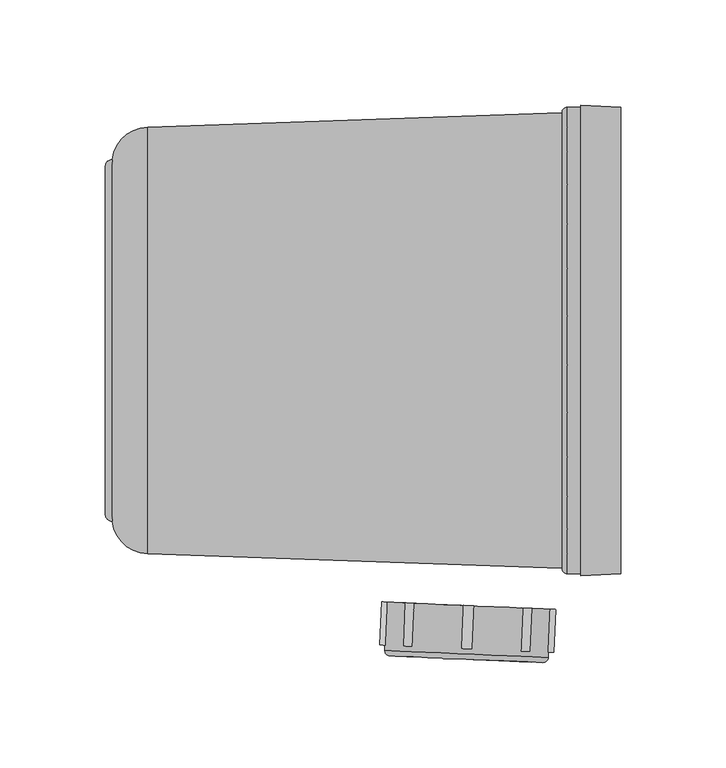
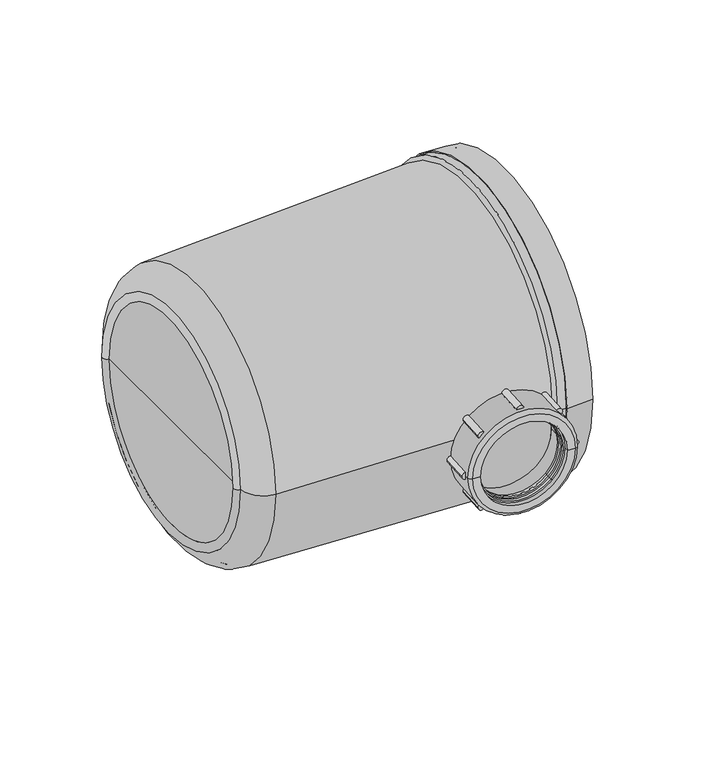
"""IFC4 building model written with IfcOpenShell, lengths in millimetres: pipe fitting geometry, Durapipe_PipeAccessories_VulcatheneMechanical_DilutionRecoveryTrap4.5L_W612 : W612 - 4.5 ltr."""

from ifc_helpers import new_model, si_unit, point, frame, frame_2d, origin, place, context, project, spatial, polyline, circle_curve, ellipse_curve, trimmed, segment, composite_curve, outline, extrude, source, transform, mapped, element, save
from ifc_brep_helpers import plane_surface, cylinder_surface, revolved_surface, advanced_brep


def pipe_fitting_eb49605e(model_context):
    return source(origin(), model_context, "Body", "SolidModel", [
        advanced_brep(
        [(16.1369601, -142.6653013, -21.3191716), (15.7130998, -142.6467952, -20.8949075), (-28.0857941, -140.7344942, 22.9457129), (-28.5096543, -140.715988, 23.369977), (-29.2484266, -146.2890676, 23.8649517), (-27.6942723, -146.3569234, 22.3093168), (14.8330408, -148.213706, -20.2585114), (16.3871951, -148.2815619, -21.8141464), (-28.0247269, -139.3358267, 22.9457129), (15.7741669, -141.2481277, -20.8949075), (14.7851597, -141.2049467, -19.9049581), (-27.0357197, -139.3790077, 21.9557634), (14.6848351, -143.5027576, -19.9049581), (-27.1360443, -141.6768186, 21.9557634), (14.4022616, -143.4904202, -19.6221153), (-26.8534707, -141.689156, 21.6729207), (-27.5852238, -143.8593029, 22.3093168), (-26.9494334, -143.8870621, 21.6729207), (14.3062989, -145.6883263, -19.6221153), (14.9420893, -145.7160855, -20.2585114)],
        [
            (0, 1),
            (1, 2, circle_curve(frame((-6.1863471, -141.6906447, 1.0254027), z_axis=(-0.043619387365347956, -0.9990482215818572, 0.0), x_axis=(0.7064337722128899, -0.030843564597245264, -0.7071067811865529)), 31.0)),
            (2, 3),
            (3, 0, circle_curve(frame((-6.1863471, -141.6906447, 1.0254027), z_axis=(0.043619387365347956, 0.9990482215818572, 0.0), x_axis=(0.7064337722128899, -0.030843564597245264, -0.7071067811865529)), 31.6)),
            (2, 1, circle_curve(frame((-6.1863471, -141.6906447, 1.0254027), z_axis=(-0.043619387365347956, -0.9990482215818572, 0.0), x_axis=(0.7064337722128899, -0.030843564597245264, -0.7071067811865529)), 31.0)),
            (0, 3, circle_curve(frame((-6.1863471, -141.6906447, 1.0254027), z_axis=(0.043619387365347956, 0.9990482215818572, 0.0), x_axis=(0.7064337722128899, -0.030843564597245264, -0.7071067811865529)), 31.6)),
            (4, 5),
            (5, 6, circle_curve(frame((-6.4306157, -147.2853147, 1.0254027), z_axis=(0.043619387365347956, 0.9990482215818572, 0.0), x_axis=(0.7064337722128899, -0.030843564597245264, -0.7071067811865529)), 30.1)),
            (6, 7),
            (7, 4, circle_curve(frame((-6.4306157, -147.2853147, 1.0254027), z_axis=(-0.043619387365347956, -0.9990482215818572, 0.0), x_axis=(0.7064337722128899, -0.030843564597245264, -0.7071067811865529)), 32.3)),
            (6, 5, circle_curve(frame((-6.4306157, -147.2853147, 1.0254027), z_axis=(0.043619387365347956, 0.9990482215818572, 0.0), x_axis=(0.7064337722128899, -0.030843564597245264, -0.7071067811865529)), 30.1)),
            (4, 7, circle_curve(frame((-6.4306157, -147.2853147, 1.0254027), z_axis=(-0.043619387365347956, -0.9990482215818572, 0.0), x_axis=(0.7064337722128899, -0.030843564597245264, -0.7071067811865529)), 32.3)),
            (3, 4),
            (7, 0),
            (8, 2),
            (1, 9),
            (9, 8, circle_curve(frame((-6.12528, -140.2919772, 1.0254027), z_axis=(-0.043619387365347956, -0.9990482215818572, 0.0), x_axis=(0.7064337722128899, -0.030843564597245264, -0.7071067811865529)), 31.0)),
            (8, 9, circle_curve(frame((-6.12528, -140.2919772, 1.0254027), z_axis=(-0.043619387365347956, -0.9990482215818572, 0.0), x_axis=(0.7064337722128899, -0.030843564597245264, -0.7071067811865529)), 31.0)),
            (9, 10),
            (10, 11, circle_curve(frame((-6.12528, -140.2919772, 1.0254027), z_axis=(-0.043619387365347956, -0.9990482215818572, 0.0), x_axis=(0.7064337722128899, -0.030843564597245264, -0.7071067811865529)), 29.6)),
            (11, 8),
            (11, 10, circle_curve(frame((-6.12528, -140.2919772, 1.0254027), z_axis=(-0.043619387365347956, -0.9990482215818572, 0.0), x_axis=(0.7064337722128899, -0.030843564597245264, -0.7071067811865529)), 29.6)),
            (10, 12),
            (12, 13, circle_curve(frame((-6.2256046, -142.5897881, 1.0254027), z_axis=(-0.043619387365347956, -0.9990482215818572, 0.0), x_axis=(0.7064337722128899, -0.030843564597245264, -0.7071067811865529)), 29.6)),
            (13, 11),
            (13, 12, circle_curve(frame((-6.2256046, -142.5897881, 1.0254027), z_axis=(-0.043619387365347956, -0.9990482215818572, 0.0), x_axis=(0.7064337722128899, -0.030843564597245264, -0.7071067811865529)), 29.6)),
            (12, 14),
            (14, 15, circle_curve(frame((-6.2256046, -142.5897881, 1.0254027), z_axis=(-0.043619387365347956, -0.9990482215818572, 0.0), x_axis=(0.7064337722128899, -0.030843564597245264, -0.7071067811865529)), 29.2)),
            (15, 13),
            (15, 14, circle_curve(frame((-6.2256046, -142.5897881, 1.0254027), z_axis=(-0.043619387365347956, -0.9990482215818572, 0.0), x_axis=(0.7064337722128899, -0.030843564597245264, -0.7071067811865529)), 29.2)),
            (16, 17),
            (17, 18, circle_curve(frame((-6.3215672, -144.7876942, 1.0254027), z_axis=(0.043619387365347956, 0.9990482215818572, 0.0), x_axis=(0.7064337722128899, -0.030843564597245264, -0.7071067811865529)), 29.2)),
            (18, 19),
            (19, 16, circle_curve(frame((-6.3215672, -144.7876942, 1.0254027), z_axis=(-0.043619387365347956, -0.9990482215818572, 0.0), x_axis=(0.7064337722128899, -0.030843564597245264, -0.7071067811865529)), 30.1)),
            (18, 17, circle_curve(frame((-6.3215672, -144.7876942, 1.0254027), z_axis=(0.043619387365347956, 0.9990482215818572, 0.0), x_axis=(0.7064337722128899, -0.030843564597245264, -0.7071067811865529)), 29.2)),
            (16, 19, circle_curve(frame((-6.3215672, -144.7876942, 1.0254027), z_axis=(-0.043619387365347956, -0.9990482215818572, 0.0), x_axis=(0.7064337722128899, -0.030843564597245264, -0.7071067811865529)), 30.1)),
            (5, 16),
            (19, 6),
            (14, 18),
            (17, 15),
        ],
        [
            plane_surface(frame((-6.1863471, -141.6906447, 1.0254027), z_axis=(0.043619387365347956, 0.9990482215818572, 0.0), x_axis=(0.7064337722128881, -0.03084356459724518, -0.707106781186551))),
            plane_surface(frame((-6.4306157, -147.2853147, 1.0254027), z_axis=(-0.043619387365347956, -0.9990482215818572, 0.0), x_axis=(0.7064337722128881, -0.03084356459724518, -0.707106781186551))),
            revolved_surface(polyline([(16.3871951, -148.2815619, -21.8141464), (16.1369601, -142.6653013, -21.3191716)]), (-6.6487127, -152.2805558, 1.0254027), (0.04361938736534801, 0.9990482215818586, 0.0)),
            cylinder_surface(frame((-6.0349593, -138.2232923, 1.0254027), z_axis=(0.04361938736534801, 0.9990482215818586, 0.0), x_axis=(0.7064337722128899, -0.030843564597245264, -0.7071067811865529)), 31.0),
            plane_surface(frame((-6.12528, -140.2919772, 1.0254027), z_axis=(0.043619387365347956, 0.9990482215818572, 0.0), x_axis=(0.7064337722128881, -0.03084356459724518, -0.707106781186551))),
            revolved_surface(polyline([(14.785159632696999, -141.20494669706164, -19.904958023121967), (14.684835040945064, -143.50275762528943, -19.904958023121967)]), (-5.9729179, -136.8023108, 1.0254027), (0.04361938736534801, 0.9990482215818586, 0.0)),
            plane_surface(frame((-6.2256046, -142.5897881, 1.0254027), z_axis=(0.043619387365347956, 0.9990482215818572, 0.0), x_axis=(0.7064337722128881, -0.03084356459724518, -0.707106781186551))),
            plane_surface(frame((-6.3215672, -144.7876942, 1.0254027), z_axis=(-0.043619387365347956, -0.9990482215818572, 0.0), x_axis=(0.7064337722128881, -0.03084356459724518, -0.707106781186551))),
            revolved_surface(polyline([(14.942089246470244, -145.716085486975, -20.258511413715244), (14.833040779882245, -148.2137059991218, -20.258511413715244)]), (-6.6487127, -152.2805558, 1.0254027), (0.04361938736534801, 0.9990482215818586, 0.0)),
            revolved_surface(polyline([(14.402261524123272, -143.49042016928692, -19.622115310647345), (14.306298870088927, -145.6883262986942, -19.622115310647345)]), (-6.4989321, -148.8500165, 1.0254027), (0.04361938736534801, 0.9990482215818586, 0.0)),
        ],
        [
            (0, [[1, 2, 3, 4]]),
            (0, [[-3, 5, -1, 6]]),
            (1, [[7, 8, 9, 10]]),
            (1, [[11, -7, 12, -9]]),
            (2, [[13, -10, 14, -4]]),
            (2, [[-14, -12, -13, -6]]),
            (3, [[15, -2, 16, 17]]),
            (3, [[-5, -15, 18, -16]]),
            (4, [[19, 20, 21, -17]]),
            (4, [[-21, 22, -19, -18]]),
            (5, [[-20, 23, 24, 25]]),
            (5, [[26, -23, -22, -25]]),
            (6, [[27, 28, 29, -24]]),
            (6, [[-29, 30, -27, -26]]),
            (7, [[31, 32, 33, 34]]),
            (7, [[-33, 35, -31, 36]]),
            (8, [[37, -34, 38, -8]]),
            (8, [[-38, -36, -37, -11]]),
            (9, [[-28, 39, -32, 40]]),
            (9, [[-35, -39, -30, -40]]),
        ],
    ),
        advanced_brep(
        [(-44.2558699, -124.1133457, 1.0254027), (-45.2547539, -146.99155, 1.0254027), (32.2713881, -150.3764145, 1.0254027), (33.2702721, -127.4982102, 1.0254027), (-38.4613902, -124.3663382, 1.0254027), (27.4757924, -127.2452177, 1.0254027), (-42.8661818, -149.598219, 1.0254027), (-37.5712262, -149.8294018, 1.0254027), (24.3697635, -152.5338038, 1.0254027), (29.6647191, -152.7649865, 1.0254027), (-39.399207, -145.8458749, 1.0254027), (26.5379756, -148.7247545, 1.0254027), (-37.4011106, -145.9331137, 1.0254027), (24.5398792, -148.6375157, 1.0254027)],
        [
            (0, 1),
            (1, 2, circle_curve(frame((-6.4916829, -148.6839822, 1.0254027), z_axis=(0.04361938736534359, 0.9990482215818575, 0.0), x_axis=(0.9990482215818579, -0.04361938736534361, 0.0)), 38.8)),
            (2, 3),
            (3, 0, circle_curve(frame((-5.4927989, -125.805778, 1.0254027), z_axis=(-0.04361938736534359, -0.9990482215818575, 0.0), x_axis=(0.9990482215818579, -0.04361938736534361, 0.0)), 38.8)),
            (2, 1, circle_curve(frame((-6.4916829, -148.6839822, 1.0254027), z_axis=(0.04361938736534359, 0.9990482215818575, 0.0), x_axis=(0.9990482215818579, -0.04361938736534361, 0.0)), 38.8)),
            (0, 3, circle_curve(frame((-5.4927989, -125.805778, 1.0254027), z_axis=(-0.04361938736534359, -0.9990482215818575, 0.0), x_axis=(0.9990482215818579, -0.04361938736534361, 0.0)), 38.8)),
            (4, 0),
            (3, 5),
            (5, 4, circle_curve(frame((-5.4927989, -125.805778, 1.0254027), z_axis=(-0.04361938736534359, -0.9990482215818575, 0.0), x_axis=(0.9990482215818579, -0.04361938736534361, 0.0)), 33.0)),
            (4, 5, circle_curve(frame((-5.4927989, -125.805778, 1.0254027), z_axis=(-0.04361938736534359, -0.9990482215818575, 0.0), x_axis=(0.9990482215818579, -0.04361938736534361, 0.0)), 33.0)),
            (6, 7),
            (7, 8, circle_curve(frame((-6.6007313, -151.1816028, 1.0254027), z_axis=(0.04361938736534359, 0.9990482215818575, 0.0), x_axis=(0.9990482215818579, -0.04361938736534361, 0.0)), 31.0)),
            (8, 9),
            (9, 6, circle_curve(frame((-6.6007313, -151.1816028, 1.0254027), z_axis=(-0.04361938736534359, -0.9990482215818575, 0.0), x_axis=(0.9990482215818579, -0.04361938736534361, 0.0)), 36.3)),
            (8, 7, circle_curve(frame((-6.6007313, -151.1816028, 1.0254027), z_axis=(0.04361938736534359, 0.9990482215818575, 0.0), x_axis=(0.9990482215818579, -0.04361938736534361, 0.0)), 31.0)),
            (6, 9, circle_curve(frame((-6.6007313, -151.1816028, 1.0254027), z_axis=(-0.04361938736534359, -0.9990482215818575, 0.0), x_axis=(0.9990482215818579, -0.04361938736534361, 0.0)), 36.3)),
            (1, 6, circle_curve(frame((-42.7571333, -147.1005985, 1.0254027), z_axis=(0.0, 0.0, 1.0000000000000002), x_axis=(-0.0436193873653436, -0.9990482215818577, 0.0)), 2.5)),
            (9, 2, circle_curve(frame((29.7737676, -150.267366, 1.0254027), z_axis=(0.0, 0.0, 1.0000000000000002), x_axis=(-0.0436193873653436, -0.9990482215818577, 0.0)), 2.5)),
            (10, 4),
            (5, 11),
            (11, 10, circle_curve(frame((-6.4306157, -147.2853147, 1.0254027), z_axis=(-0.04361938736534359, -0.9990482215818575, 0.0), x_axis=(0.9990482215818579, -0.04361938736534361, 0.0)), 33.0)),
            (10, 11, circle_curve(frame((-6.4306157, -147.2853147, 1.0254027), z_axis=(-0.04361938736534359, -0.9990482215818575, 0.0), x_axis=(0.9990482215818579, -0.04361938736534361, 0.0)), 33.0)),
            (12, 10),
            (11, 13),
            (13, 12, circle_curve(frame((-6.4306157, -147.2853147, 1.0254027), z_axis=(-0.04361938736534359, -0.9990482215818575, 0.0), x_axis=(0.9990482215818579, -0.04361938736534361, 0.0)), 31.0)),
            (12, 13, circle_curve(frame((-6.4306157, -147.2853147, 1.0254027), z_axis=(-0.04361938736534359, -0.9990482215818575, 0.0), x_axis=(0.9990482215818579, -0.04361938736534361, 0.0)), 31.0)),
            (7, 12),
            (13, 8),
        ],
        [
            cylinder_surface(frame((-74.6819504, -1710.4978837, 1.0254027), z_axis=(0.0436193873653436, 0.9990482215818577, 0.0), x_axis=(0.9990482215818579, -0.04361938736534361, 0.0)), 38.8),
            plane_surface(frame((-5.4927989, -125.805778, 1.0254027), z_axis=(0.04361938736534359, 0.9990482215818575, 0.0), x_axis=(0.9990482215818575, -0.04361938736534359, 0.0))),
            plane_surface(frame((-6.6007313, -151.1816028, 1.0254027), z_axis=(-0.04361938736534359, -0.9990482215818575, 0.0), x_axis=(0.9990482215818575, -0.04361938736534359, 0.0))),
            revolved_surface(trimmed(ellipse_curve(frame((29.7737676, -150.267366, 1.0254027), z_axis=(0.0, 0.0, 1.0000000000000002), x_axis=(-0.0436193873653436, -0.9990482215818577, 0.0)), 2.5, 2.5), [point((29.6647191, -152.7649865, 1.0254027))], [point((32.2713881, -150.3764145, 1.0254027))], True, "CARTESIAN"), (-74.6819504, -1710.4978837, 1.0254027), (0.0436193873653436, 0.9990482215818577, 0.0)),
            revolved_surface(polyline([(27.475792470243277, -127.24521770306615, 1.0254027), (26.537975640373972, -148.72475450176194, 1.0254027)]), (-74.6819504, -1710.4978837, 1.0254027), (0.0436193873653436, 0.9990482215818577, 0.0)),
            plane_surface(frame((-6.4306157, -147.2853147, 1.0254027), z_axis=(0.04361938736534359, 0.9990482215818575, 0.0), x_axis=(0.9990482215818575, -0.04361938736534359, 0.0))),
            revolved_surface(polyline([(24.539879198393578, -148.63751569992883, 1.0254027), (24.36976358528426, -152.5338038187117, 1.0254027)]), (-74.6819504, -1710.4978837, 1.0254027), (0.0436193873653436, 0.9990482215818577, 0.0)),
        ],
        [
            (0, [[1, 2, 3, 4]]),
            (0, [[-3, 5, -1, 6]]),
            (1, [[7, -4, 8, 9]]),
            (1, [[-8, -6, -7, 10]]),
            (2, [[11, 12, 13, 14]]),
            (2, [[-13, 15, -11, 16]]),
            (3, [[17, -14, 18, -2]]),
            (3, [[-18, -16, -17, -5]]),
            (4, [[19, -9, 20, 21]]),
            (4, [[-20, -10, -19, 22]]),
            (5, [[23, -21, 24, 25]]),
            (5, [[-24, -22, -23, 26]]),
            (6, [[27, -25, 28, -12]]),
            (6, [[-28, -26, -27, -15]]),
        ],
    ),
        extrude(outline(composite_curve([segment(trimmed(circle_curve(frame_2d((0.0, 2.5)), 2.5), [point((0.0, 5.0))], [point((0.0, 0.0))], False, "CARTESIAN"), True, "CONTINUOUS"), segment(trimmed(circle_curve(frame_2d((0.0, 2.5)), 2.5), [point((0.0, 0.0))], [point((0.0, 5.0))], False, "CARTESIAN"), True, "CONTINUOUS")], self_intersect=False)), frame((-3.8850138, -146.2954101, -37.7745973), z_axis=(0.04361938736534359, 0.9990482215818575, 0.0), x_axis=(0.0, 0.0, -1.0)), (0.0, 0.0, 1.0), 20.4),
        extrude(outline(composite_curve([segment(trimmed(circle_curve(frame_2d((-11.3642569, -24.9357431)), 2.5), [point((-11.3642569, -22.4357431))], [point((-11.3642569, -27.4357431))], False, "CARTESIAN"), True, "CONTINUOUS"), segment(trimmed(circle_curve(frame_2d((-11.3642569, -24.9357431)), 2.5), [point((-11.3642569, -27.4357431))], [point((-11.3642569, -22.4357431))], False, "CARTESIAN"), True, "CONTINUOUS")], self_intersect=False)), frame((-3.8850138, -146.2954101, -37.7745973), z_axis=(0.04361938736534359, 0.9990482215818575, 0.0), x_axis=(0.0, 0.0, -1.0)), (0.0, 0.0, 1.0), 20.4),
        extrude(outline(composite_curve([segment(trimmed(circle_curve(frame_2d((-38.8, -36.3)), 2.5), [point((-38.8, -33.8))], [point((-38.8, -38.8))], False, "CARTESIAN"), True, "CONTINUOUS"), segment(trimmed(circle_curve(frame_2d((-38.8, -36.3)), 2.5), [point((-38.8, -38.8))], [point((-38.8, -33.8))], False, "CARTESIAN"), True, "CONTINUOUS")], self_intersect=False)), frame((-3.8850138, -146.2954101, -37.7745973), z_axis=(0.04361938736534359, 0.9990482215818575, 0.0), x_axis=(0.0, 0.0, -1.0)), (0.0, 0.0, 1.0), 20.4),
        extrude(outline(composite_curve([segment(trimmed(circle_curve(frame_2d((-66.2357431, -24.9357431)), 2.5), [point((-66.2357431, -22.4357431))], [point((-66.2357431, -27.4357431))], False, "CARTESIAN"), True, "CONTINUOUS"), segment(trimmed(circle_curve(frame_2d((-66.2357431, -24.9357431)), 2.5), [point((-66.2357431, -27.4357431))], [point((-66.2357431, -22.4357431))], False, "CARTESIAN"), True, "CONTINUOUS")], self_intersect=False)), frame((-3.8850138, -146.2954101, -37.7745973), z_axis=(0.04361938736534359, 0.9990482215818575, 0.0), x_axis=(0.0, 0.0, -1.0)), (0.0, 0.0, 1.0), 20.4),
        extrude(outline(composite_curve([segment(trimmed(circle_curve(frame_2d((-77.6, 2.5)), 2.5), [point((-77.6, 5.0))], [point((-77.6, 0.0))], False, "CARTESIAN"), True, "CONTINUOUS"), segment(trimmed(circle_curve(frame_2d((-77.6, 2.5)), 2.5), [point((-77.6, 0.0))], [point((-77.6, 5.0))], False, "CARTESIAN"), True, "CONTINUOUS")], self_intersect=False)), frame((-3.8850138, -146.2954101, -37.7745973), z_axis=(0.04361938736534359, 0.9990482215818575, 0.0), x_axis=(0.0, 0.0, -1.0)), (0.0, 0.0, 1.0), 20.4),
        extrude(outline(composite_curve([segment(trimmed(circle_curve(frame_2d((-66.2357431, 29.9357432)), 2.5), [point((-66.2357431, 32.4357431))], [point((-66.2357431, 27.4357431))], False, "CARTESIAN"), True, "CONTINUOUS"), segment(trimmed(circle_curve(frame_2d((-66.2357431, 29.9357432)), 2.5), [point((-66.2357431, 27.4357431))], [point((-66.2357431, 32.4357431))], False, "CARTESIAN"), True, "CONTINUOUS")], self_intersect=False)), frame((-3.8850138, -146.2954101, -37.7745973), z_axis=(0.04361938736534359, 0.9990482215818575, 0.0), x_axis=(0.0, 0.0, -1.0)), (0.0, 0.0, 1.0), 20.4),
        extrude(outline(composite_curve([segment(trimmed(circle_curve(frame_2d((-38.8, 41.3)), 2.5), [point((-38.8, 43.8))], [point((-38.8, 38.8))], False, "CARTESIAN"), True, "CONTINUOUS"), segment(trimmed(circle_curve(frame_2d((-38.8, 41.3)), 2.5), [point((-38.8, 38.8))], [point((-38.8, 43.8))], False, "CARTESIAN"), True, "CONTINUOUS")], self_intersect=False)), frame((-3.8850138, -146.2954101, -37.7745973), z_axis=(0.04361938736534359, 0.9990482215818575, 0.0), x_axis=(0.0, 0.0, -1.0)), (0.0, 0.0, 1.0), 20.4),
        extrude(outline(composite_curve([segment(trimmed(circle_curve(frame_2d((-11.3642569, 29.9357432)), 2.5), [point((-11.3642569, 32.4357431))], [point((-11.3642569, 27.4357431))], False, "CARTESIAN"), True, "CONTINUOUS"), segment(trimmed(circle_curve(frame_2d((-11.3642569, 29.9357432)), 2.5), [point((-11.3642569, 27.4357431))], [point((-11.3642569, 32.4357431))], False, "CARTESIAN"), True, "CONTINUOUS")], self_intersect=False)), frame((-3.8850138, -146.2954101, -37.7745973), z_axis=(0.04361938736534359, 0.9990482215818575, 0.0), x_axis=(0.0, 0.0, -1.0)), (0.0, 0.0, 1.0), 20.4),
        advanced_brep(
        [(-157.7100252, -101.2365899, 0.0), (-157.7100252, 101.2365899, 0.0), (38.8182872, 108.0995098, 0.0), (38.8182872, -108.0995098, 0.0), (-174.4752251, -85.759581, 0.0), (-174.4752251, 85.759581, 0.0), (-174.5902961, 0.0, 0.0), (-174.5902961, 79.4746418, 0.0), (-174.5902961, -79.4746418, 0.0), (-171.3902961, -83.7565577, 0.0), (-171.3902961, 83.7565577, 0.0), (-171.3902961, 0.0, 0.0), (-157.5983468, -98.0385393, 0.0), (-157.5983468, 98.0385393, 0.0), (41.6122872, -104.9951279, 0.0), (41.6122872, 104.9951279, 0.0), (41.6122872, -107.8865, 0.0), (41.6122872, 107.8865, 0.0), (66.5995372, -107.8865, 0.0), (66.5995372, 107.8865, 0.0), (66.5995372, -110.7184335, 0.0), (66.5995372, 110.7184335, 0.0), (47.6257372, -111.4805, 0.0), (47.6257372, 111.4805, 0.0), (47.6257372, -110.6805, 0.0), (47.6257372, 110.6805, 0.0), (41.3992773, -110.6805, 0.0), (41.3992773, 110.6805, 0.0)],
        [
            (0, 1, circle_curve(frame((-157.7100252, 0.0, 0.0), z_axis=(1.0, 0.0, 0.0), x_axis=(0.0, 1.0, 0.0)), 101.2365899)),
            (1, 2),
            (2, 3, circle_curve(frame((38.8182872, 0.0, 0.0), z_axis=(-1.0, 0.0, 0.0), x_axis=(0.0, 1.0, 0.0)), 108.0995098)),
            (3, 0),
            (1, 0, circle_curve(frame((-157.7100252, 0.0, 0.0), z_axis=(1.0, 0.0, 0.0), x_axis=(0.0, 1.0, 0.0)), 101.2365899)),
            (3, 2, circle_curve(frame((38.8182872, 0.0, 0.0), z_axis=(-1.0, 0.0, 0.0), x_axis=(0.0, 1.0, 0.0)), 108.0995098)),
            (0, 4, circle_curve(frame((-157.099609, -83.7565577, 0.0), z_axis=(0.0, 0.0, -1.0), x_axis=(1.0, 0.0, 0.0)), 17.4906871)),
            (4, 5, circle_curve(frame((-174.4752251, 0.0, 0.0), z_axis=(1.0, 0.0, 0.0), x_axis=(0.0, 1.0, 0.0)), 85.759581)),
            (5, 1, circle_curve(frame((-157.099609, 83.7565577, 0.0), z_axis=(0.0, 0.0, -1.0), x_axis=(1.0, 0.0, 0.0)), 17.4906871)),
            (5, 4, circle_curve(frame((-174.4752251, 0.0, 0.0), z_axis=(1.0, 0.0, 0.0), x_axis=(0.0, 1.0, 0.0)), 85.759581)),
            (6, 7),
            (7, 8, circle_curve(frame((-174.5902961, 0.0, 0.0), z_axis=(-1.0, 0.0, 0.0), x_axis=(0.0, 1.0, 0.0)), 79.4746418)),
            (8, 6),
            (8, 7, circle_curve(frame((-174.5902961, 0.0, 0.0), z_axis=(-1.0, 0.0, 0.0), x_axis=(0.0, 1.0, 0.0)), 79.4746418)),
            (9, 10, circle_curve(frame((-171.3902961, 0.0, 0.0), z_axis=(1.0, 0.0, 0.0), x_axis=(0.0, 1.0, 0.0)), 83.7565577)),
            (10, 11),
            (11, 9),
            (10, 9, circle_curve(frame((-171.3902961, 0.0, 0.0), z_axis=(1.0, 0.0, 0.0), x_axis=(0.0, 1.0, 0.0)), 83.7565577)),
            (9, 12, circle_curve(frame((-157.099609, -83.7565577, 0.0), z_axis=(0.0, 0.0, 1.0), x_axis=(1.0, 0.0, 0.0)), 14.2906871)),
            (12, 13, circle_curve(frame((-157.5983468, 0.0, 0.0), z_axis=(1.0, 0.0, 0.0), x_axis=(0.0, 1.0, 0.0)), 98.0385393)),
            (13, 10, circle_curve(frame((-157.099609, 83.7565577, 0.0), z_axis=(0.0, 0.0, 1.0), x_axis=(1.0, 0.0, 0.0)), 14.2906871)),
            (13, 12, circle_curve(frame((-157.5983468, 0.0, 0.0), z_axis=(1.0, 0.0, 0.0), x_axis=(0.0, 1.0, 0.0)), 98.0385393)),
            (12, 14),
            (14, 15, circle_curve(frame((41.6122872, 0.0, 0.0), z_axis=(1.0, 0.0, 0.0), x_axis=(0.0, 1.0, 0.0)), 104.9951279)),
            (15, 13),
            (15, 14, circle_curve(frame((41.6122872, 0.0, 0.0), z_axis=(1.0, 0.0, 0.0), x_axis=(0.0, 1.0, 0.0)), 104.9951279)),
            (14, 16),
            (16, 17, circle_curve(frame((41.6122872, 0.0, 0.0), z_axis=(1.0, 0.0, 0.0), x_axis=(0.0, 1.0, 0.0)), 107.8865)),
            (17, 15),
            (17, 16, circle_curve(frame((41.6122872, 0.0, 0.0), z_axis=(1.0, 0.0, 0.0), x_axis=(0.0, 1.0, 0.0)), 107.8865)),
            (16, 18),
            (18, 19, circle_curve(frame((66.5995372, 0.0, 0.0), z_axis=(1.0, 0.0, 0.0), x_axis=(0.0, 1.0, 0.0)), 107.8865)),
            (19, 17),
            (19, 18, circle_curve(frame((66.5995372, 0.0, 0.0), z_axis=(1.0, 0.0, 0.0), x_axis=(0.0, 1.0, 0.0)), 107.8865)),
            (18, 20),
            (20, 21, circle_curve(frame((66.5995372, 0.0, 0.0), z_axis=(1.0, 0.0, 0.0), x_axis=(0.0, 1.0, 0.0)), 110.7184335)),
            (21, 19),
            (21, 20, circle_curve(frame((66.5995372, 0.0, 0.0), z_axis=(1.0, 0.0, 0.0), x_axis=(0.0, 1.0, 0.0)), 110.7184335)),
            (20, 22),
            (22, 23, circle_curve(frame((47.6257372, 0.0, 0.0), z_axis=(1.0, 0.0, 0.0), x_axis=(0.0, 1.0, 0.0)), 111.4805)),
            (23, 21),
            (23, 22, circle_curve(frame((47.6257372, 0.0, 0.0), z_axis=(1.0, 0.0, 0.0), x_axis=(0.0, 1.0, 0.0)), 111.4805)),
            (22, 24),
            (24, 25, circle_curve(frame((47.6257372, 0.0, 0.0), z_axis=(1.0, 0.0, 0.0), x_axis=(0.0, 1.0, 0.0)), 110.6805)),
            (25, 23),
            (25, 24, circle_curve(frame((47.6257372, 0.0, 0.0), z_axis=(1.0, 0.0, 0.0), x_axis=(0.0, 1.0, 0.0)), 110.6805)),
            (24, 26),
            (26, 27, circle_curve(frame((41.3992773, 0.0, 0.0), z_axis=(1.0, 0.0, 0.0), x_axis=(0.0, 1.0, 0.0)), 110.6805)),
            (27, 25),
            (27, 26, circle_curve(frame((41.3992773, 0.0, 0.0), z_axis=(1.0, 0.0, 0.0), x_axis=(0.0, 1.0, 0.0)), 110.6805)),
            (2, 27, circle_curve(frame((41.3992773, 108.0995098, 0.0), z_axis=(0.0, 0.0, -1.0), x_axis=(1.0, 0.0, 0.0)), 2.5809902)),
            (26, 3, circle_curve(frame((41.3992773, -108.0995098, 0.0), z_axis=(0.0, 0.0, -1.0), x_axis=(1.0, 0.0, 0.0)), 2.5809902)),
            (7, 5, circle_curve(frame((-174.5902961, 82.6181648, 0.0), z_axis=(0.0, 0.0, -1.0), x_axis=(1.0, 0.0, 0.0)), 3.143523)),
            (4, 8, circle_curve(frame((-174.5902961, -82.6181648, 0.0), z_axis=(0.0, 0.0, -1.0), x_axis=(1.0, 0.0, 0.0)), 3.143523)),
        ],
        [
            revolved_surface(polyline([(38.8182872, 108.0995098, 0.0), (-157.7100252, 101.2365899, 0.0)]), (-194.5902961, 0.0, 0.0), (-1.0, 0.0, 0.0)),
            revolved_surface(trimmed(ellipse_curve(frame((-157.099609, 83.7565577, 0.0), z_axis=(0.0, 0.0, 1.0), x_axis=(1.0, 0.0, 0.0)), 17.4906871, 17.4906871), [point((-157.7100252, 101.2365899, 0.0))], [point((-174.5902961, 83.7565577, 0.0))], True, "CARTESIAN"), (-194.5902961, 0.0, 0.0), (-1.0, 0.0, 0.0)),
            plane_surface(frame((-174.5902961, 0.0, 0.0), z_axis=(-1.0, 0.0, 0.0), x_axis=(0.0, 1.0, 0.0))),
            plane_surface(frame((-171.3902961, 0.0, 0.0), z_axis=(1.0, 0.0, 0.0), x_axis=(0.0, 1.0, 0.0))),
            revolved_surface(trimmed(ellipse_curve(frame((-157.099609, 83.7565577, 0.0), z_axis=(0.0, 0.0, -1.0), x_axis=(1.0, 0.0, 0.0)), 14.2906871, 14.2906871), [point((-171.3902961, 83.7565577, 0.0))], [point((-157.5983468, 98.0385393, 0.0))], True, "CARTESIAN"), (-194.5902961, 0.0, 0.0), (-1.0, 0.0, 0.0)),
            revolved_surface(polyline([(-157.5983468, 98.0385393, 0.0), (41.6122872, 104.9951279, 0.0)]), (-194.5902961, 0.0, 0.0), (-1.0, 0.0, 0.0)),
            plane_surface(frame((41.6122872, 0.0, 0.0), z_axis=(1.0, 0.0, 0.0), x_axis=(0.0, 1.0, 0.0))),
            revolved_surface(polyline([(41.6122872, 107.8865, 0.0), (66.59953719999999, 107.8865, 0.0)]), (-194.5902961, 0.0, 0.0), (-1.0, 0.0, 0.0)),
            plane_surface(frame((66.5995372, 0.0, 0.0), z_axis=(1.0, 0.0, 0.0), x_axis=(0.0, 1.0, 0.0))),
            revolved_surface(polyline([(66.5995372, 110.7184335, 0.0), (47.6257372, 111.4805, 0.0)]), (-194.5902961, 0.0, 0.0), (-1.0, 0.0, 0.0)),
            plane_surface(frame((47.6257372, 0.0, 0.0), z_axis=(-1.0, 0.0, 0.0), x_axis=(0.0, 1.0, 0.0))),
            cylinder_surface(frame((-194.5902961, 0.0, 0.0), z_axis=(-1.0, 0.0, 0.0), x_axis=(0.0, 1.0, 0.0)), 110.6805),
            revolved_surface(trimmed(ellipse_curve(frame((41.3992773, 108.0995098, 0.0), z_axis=(0.0, 0.0, 1.0), x_axis=(1.0, 0.0, 0.0)), 2.5809902, 2.5809902), [point((41.3992773, 110.6805, 0.0))], [point((38.8182872, 108.0995098, 0.0))], True, "CARTESIAN"), (-194.5902961, 0.0, 0.0), (-1.0, 0.0, 0.0)),
            revolved_surface(trimmed(ellipse_curve(frame((-174.5902961, 82.6181648, 0.0), z_axis=(0.0, 0.0, 1.0), x_axis=(1.0, 0.0, 0.0)), 3.143523, 3.143523), [point((-173.0529567, 85.3601212, 0.0))], [point((-173.0529567, 79.8762085, 0.0))], True, "CARTESIAN"), (-184.6625599, 0.0, 0.0), (-1.0, 0.0, 0.0)),
        ],
        [
            (0, [[1, 2, 3, 4]]),
            (0, [[-2, 5, -4, 6]]),
            (1, [[-1, 7, 8, 9]]),
            (1, [[-5, -9, 10, -7]]),
            (2, [[11, 12, 13]]),
            (2, [[-11, -13, 14]]),
            (3, [[15, 16, 17]]),
            (3, [[-16, 18, -17]]),
            (4, [[-15, 19, 20, 21]]),
            (4, [[-18, -21, 22, -19]]),
            (5, [[-20, 23, 24, 25]]),
            (5, [[-22, -25, 26, -23]]),
            (6, [[-24, 27, 28, 29]]),
            (6, [[-26, -29, 30, -27]]),
            (7, [[-28, 31, 32, 33]]),
            (7, [[-30, -33, 34, -31]]),
            (8, [[-32, 35, 36, 37]]),
            (8, [[-34, -37, 38, -35]]),
            (9, [[-36, 39, 40, 41]]),
            (9, [[-38, -41, 42, -39]]),
            (10, [[-40, 43, 44, 45]]),
            (10, [[-42, -45, 46, -43]]),
            (11, [[-44, 47, 48, 49]]),
            (11, [[-46, -49, 50, -47]]),
            (12, [[-3, 51, -48, 52]]),
            (12, [[-6, -52, -50, -51]]),
            (13, [[53, -8, 54, -12]]),
            (13, [[-53, -14, -54, -10]]),
        ],
    ),
    ])


if __name__ == "__main__":
    model = new_model("IFC4")
    model_context = context("Model", 3, world=origin())
    ifc_project = project(units=[si_unit("LENGTHUNIT", "METRE", prefix="MILLI")], contexts=[model_context])
    site = spatial("IfcSite", under=ifc_project)
    building = spatial("IfcBuilding", under=site)
    placement = place(None, origin())
    pipe_fitting_shape = pipe_fitting_eb49605e(model_context)
    element("IfcPipeFitting", 1, ObjectType="Durapipe_PipeAccessories_VulcatheneMechanical_DilutionRecoveryTrap4.5L_W612 : W612 - 4.5 ltr", at=placement, inside=building, context=model_context, shape_type="MappedRepresentation", body=[
        mapped(pipe_fitting_shape, transform((0.0, 0.0, 0.0), x_axis=(1.0, 0.0, 0.0), y_axis=(0.0, 1.0, 0.0), z_axis=(0.0, 0.0, 1.0))),
    ])
    save(model, "model.ifc")
